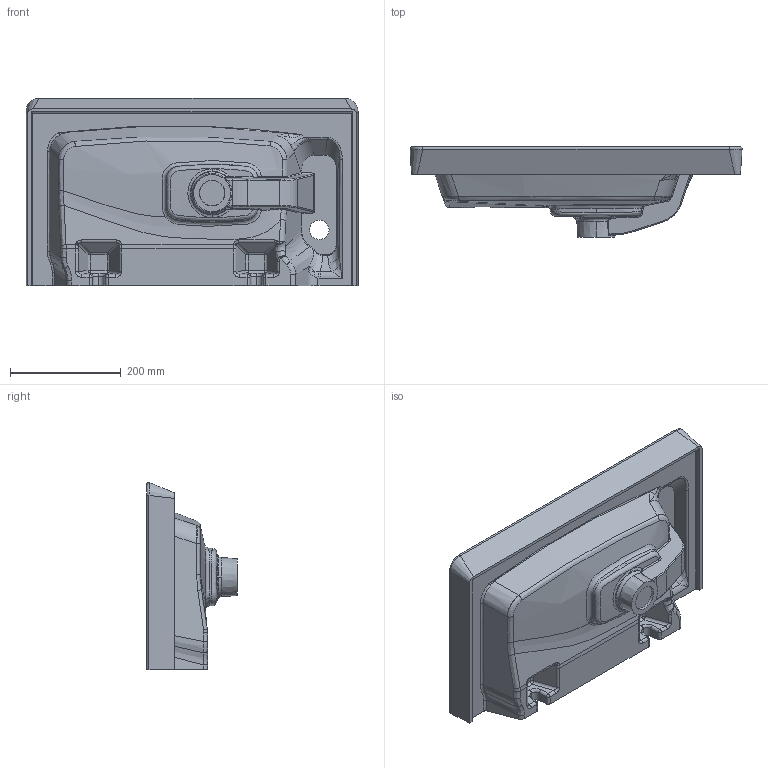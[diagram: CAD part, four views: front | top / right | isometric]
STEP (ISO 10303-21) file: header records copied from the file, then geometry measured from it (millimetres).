
FILE_DESCRIPTION (( 'STEP AP203' ), '1' );
FILE_NAME ('MY060-00CB00E-0000.STEP', '2022-04-20T07:27:02', ( '' ), ( '' ), 'SwSTEP 2.0', 'SolidWorks 2021', '' );
FILE_SCHEMA (( 'CONFIG_CONTROL_DESIGN' ));
Length unit declared in the file: millimetre
Products named in the file (1): MY060-00CB00E-0000
Bounding box: 599.49 x 163.8 x 337.97 mm (x, y, z)
Volume: 7594442 mm3; surface area: 699951.9 mm2
Topology: 3 solids, 3 shells, 532 faces, 1305 edges, 756 vertices
Faces by surface type: bspline 242, cylinder 141, plane 76, sphere 30, torus 27, cone 16
Entity records: 39391 total; most frequent: CARTESIAN_POINT 28849, ORIENTED_EDGE 2544, DIRECTION 1755, EDGE_CURVE 1272, VERTEX_POINT 756, AXIS2_PLACEMENT_3D 709, EDGE_LOOP 546, ADVANCED_FACE 532
